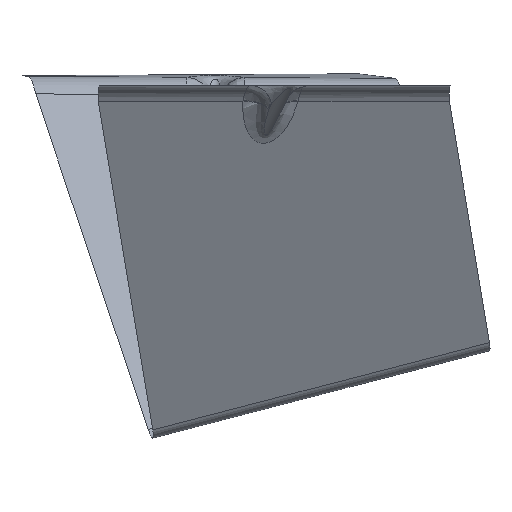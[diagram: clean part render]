
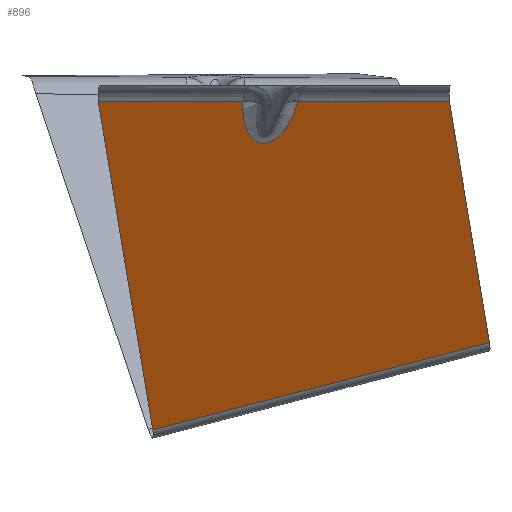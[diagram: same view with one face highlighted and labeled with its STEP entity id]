
A CAD part, left-side view. The second image highlights one B-rep face of the part: STEP entity #896.
In plain terms, the highlighted planar face has unit normal (-0.83, -0.249, -0.5).
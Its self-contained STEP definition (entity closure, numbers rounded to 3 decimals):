
#400=CARTESIAN_POINT('Vertex',(-105.877,9.163,-0.35)) ;
#663=CARTESIAN_POINT('Control Point',(-101.183,-6.481,-0.35)) ;
#664=CARTESIAN_POINT('Control Point',(-100.948,-6.362,-0.801)) ;
#665=CARTESIAN_POINT('Control Point',(-100.715,-6.231,-1.251)) ;
#666=CARTESIAN_POINT('Control Point',(-100.486,-6.091,-1.701)) ;
#667=CARTESIAN_POINT('Control Point',(-99.837,-5.655,-2.995)) ;
#668=CARTESIAN_POINT('Control Point',(-99.221,-5.127,-4.28)) ;
#669=CARTESIAN_POINT('Control Point',(-98.835,-4.74,-5.112)) ;
#670=CARTESIAN_POINT('Control Point',(-98.31,-4.118,-6.294)) ;
#671=CARTESIAN_POINT('Control Point',(-97.836,-3.376,-7.448)) ;
#672=CARTESIAN_POINT('Control Point',(-97.699,-3.141,-7.793)) ;
#673=CARTESIAN_POINT('Control Point',(-97.456,-2.682,-8.425)) ;
#674=CARTESIAN_POINT('Control Point',(-97.237,-2.172,-9.042)) ;
#675=CARTESIAN_POINT('Control Point',(-97.142,-1.925,-9.322)) ;
#676=CARTESIAN_POINT('Control Point',(-96.923,-1.279,-10.006)) ;
#677=CARTESIAN_POINT('Control Point',(-96.757,-0.541,-10.649)) ;
#678=CARTESIAN_POINT('Control Point',(-96.682,-0.06,-11.014)) ;
#679=CARTESIAN_POINT('Control Point',(-96.616,0.757,-11.529)) ;
#680=CARTESIAN_POINT('Control Point',(-96.675,1.699,-11.901)) ;
#681=CARTESIAN_POINT('Control Point',(-96.713,2.046,-12.01)) ;
#682=CARTESIAN_POINT('Control Point',(-96.811,2.621,-12.134)) ;
#683=CARTESIAN_POINT('Control Point',(-96.964,3.202,-12.169)) ;
#684=CARTESIAN_POINT('Control Point',(-97.029,3.419,-12.168)) ;
#685=CARTESIAN_POINT('Control Point',(-97.222,3.988,-12.131)) ;
#686=CARTESIAN_POINT('Control Point',(-97.458,4.519,-12.005)) ;
#687=CARTESIAN_POINT('Control Point',(-97.618,4.83,-11.895)) ;
#688=CARTESIAN_POINT('Control Point',(-98.075,5.624,-11.531)) ;
#689=CARTESIAN_POINT('Control Point',(-98.565,6.255,-11.033)) ;
#690=CARTESIAN_POINT('Control Point',(-98.879,6.604,-10.685)) ;
#691=CARTESIAN_POINT('Control Point',(-99.406,7.119,-10.067)) ;
#692=CARTESIAN_POINT('Control Point',(-99.927,7.533,-9.409)) ;
#693=CARTESIAN_POINT('Control Point',(-100.138,7.687,-9.136)) ;
#694=CARTESIAN_POINT('Control Point',(-100.609,8.005,-8.512)) ;
#695=CARTESIAN_POINT('Control Point',(-101.073,8.264,-7.872)) ;
#696=CARTESIAN_POINT('Control Point',(-101.328,8.393,-7.512)) ;
#697=CARTESIAN_POINT('Control Point',(-102.255,8.811,-6.184)) ;
#698=CARTESIAN_POINT('Control Point',(-103.152,9.059,-4.819)) ;
#699=CARTESIAN_POINT('Control Point',(-103.787,9.17,-3.821)) ;
#700=CARTESIAN_POINT('Control Point',(-104.588,9.235,-2.524)) ;
#701=CARTESIAN_POINT('Control Point',(-105.366,9.208,-1.22)) ;
#702=CARTESIAN_POINT('Control Point',(-105.537,9.197,-0.93)) ;
#703=CARTESIAN_POINT('Control Point',(-105.707,9.183,-0.64)) ;
#704=CARTESIAN_POINT('Control Point',(-105.877,9.163,-0.35)) ;
#705=CARTESIAN_POINT('Vertex',(-101.183,-6.481,-0.35)) ;
#850=CARTESIAN_POINT('Axis2P3D Location',(-46.693,-14.008,-87.003)) ;
#855=CARTESIAN_POINT('Line Origine',(-112.057,29.766,-0.35)) ;
#859=CARTESIAN_POINT('Vertex',(-118.238,50.368,-0.35)) ;
#862=CARTESIAN_POINT('Line Origine',(-87.739,42.614,-47.088)) ;
#866=CARTESIAN_POINT('Vertex',(-57.241,34.86,-93.826)) ;
#869=CARTESIAN_POINT('Line Origine',(-50.36,-13.076,-81.383)) ;
#873=CARTESIAN_POINT('Vertex',(-43.48,-61.012,-68.941)) ;
#876=CARTESIAN_POINT('Line Origine',(-65.859,-55.322,-34.645)) ;
#880=CARTESIAN_POINT('Vertex',(-88.238,-49.632,-0.35)) ;
#883=CARTESIAN_POINT('Line Origine',(-94.711,-28.057,-0.35)) ;
#851=DIRECTION('Axis2P3D Direction',(0.83,0.249,0.5)) ;
#852=DIRECTION('Axis2P3D XDirection',(0.541,-0.138,-0.83)) ;
#856=DIRECTION('Vector Direction',(0.287,-0.958,0.)) ;
#863=DIRECTION('Vector Direction',(0.541,-0.138,-0.83)) ;
#870=DIRECTION('Vector Direction',(0.138,-0.959,0.249)) ;
#877=DIRECTION('Vector Direction',(-0.541,0.138,0.83)) ;
#884=DIRECTION('Vector Direction',(0.287,-0.958,0.)) ;
#853=AXIS2_PLACEMENT_3D('Plane Axis2P3D',#850,#851,#852) ;
#889=ORIENTED_EDGE('',*,*,#707,.T.) ;
#890=ORIENTED_EDGE('',*,*,#861,.F.) ;
#891=ORIENTED_EDGE('',*,*,#868,.T.) ;
#892=ORIENTED_EDGE('',*,*,#875,.T.) ;
#893=ORIENTED_EDGE('',*,*,#882,.T.) ;
#894=ORIENTED_EDGE('',*,*,#887,.F.) ;
#857=VECTOR('Line Direction',#856,1.) ;
#864=VECTOR('Line Direction',#863,1.) ;
#871=VECTOR('Line Direction',#870,1.) ;
#878=VECTOR('Line Direction',#877,1.) ;
#885=VECTOR('Line Direction',#884,1.) ;
#896=ADVANCED_FACE('Extract.1',(#895),#854,.F.) ;
#662=B_SPLINE_CURVE_WITH_KNOTS('',5,(#663,#664,#665,#666,#667,#668,#669,#670,#671,#672,#673,#674,#675,#676,#677,#678,#679,#680,#681,#682,#683,#684,#685,#686,#687,#688,#689,#690,#691,#692,#693,#694,#695,#696,#697,#698,#699,#700,#701,#702,#703,#704),.UNSPECIFIED.,.F.,.U.,(6,3,3,3,3,3,3,3,3,3,3,3,3,6),(29.157,32.624,39.153,41.956,44.36,47.928,49.861,51.019,52.952,56.37,58.725,61.655,69.474,71.706),.UNSPECIFIED.) ;
#707=EDGE_CURVE('',#706,#401,#662,.T.) ;
#861=EDGE_CURVE('',#860,#401,#858,.T.) ;
#868=EDGE_CURVE('',#860,#867,#865,.T.) ;
#875=EDGE_CURVE('',#867,#874,#872,.T.) ;
#882=EDGE_CURVE('',#874,#881,#879,.T.) ;
#887=EDGE_CURVE('',#706,#881,#886,.T.) ;
#888=EDGE_LOOP('',(#889,#890,#891,#892,#893,#894)) ;
#895=FACE_OUTER_BOUND('',#888,.T.) ;
#858=LINE('Line',#855,#857) ;
#865=LINE('Line',#862,#864) ;
#872=LINE('Line',#869,#871) ;
#879=LINE('Line',#876,#878) ;
#886=LINE('Line',#883,#885) ;
#854=PLANE('',#853) ;
#401=VERTEX_POINT('',#400) ;
#706=VERTEX_POINT('',#705) ;
#860=VERTEX_POINT('',#859) ;
#867=VERTEX_POINT('',#866) ;
#874=VERTEX_POINT('',#873) ;
#881=VERTEX_POINT('',#880) ;
